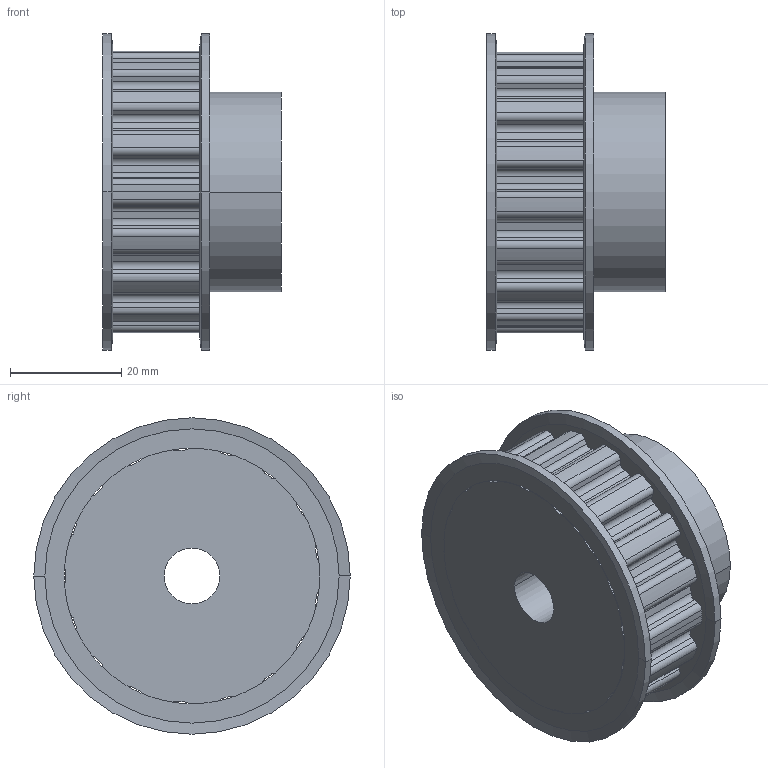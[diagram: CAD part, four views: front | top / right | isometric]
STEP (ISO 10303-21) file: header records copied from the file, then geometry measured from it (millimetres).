
FILE_DESCRIPTION( ( '' ), '1' );
FILE_NAME( 'C:/Users/Stangenbergd/Documents/CAD_Step/1/18211700.stp', '2021-10-19T10:34:58', ( '' ), ( '' ), ' ', ' ', ' ' );
FILE_SCHEMA( ( 'CONFIG_CONTROL_DESIGN' ) );
Length unit declared in the file: millimetre
Products named in the file (1): 1
Bounding box: 32.13 x 57 x 57 mm (x, y, z)
Volume: 47798 mm3; surface area: 12870.4 mm2
Topology: 1 solids, 1 shells, 232 faces, 803 edges, 510 vertices
Faces by surface type: cylinder 166, plane 58, cone 8
Entity records: 8971 total; most frequent: DIRECTION 1677, ORIENTED_EDGE 1606, CARTESIAN_POINT 1546, EDGE_CURVE 803, AXIS2_PLACEMENT_3D 641, VERTEX_POINT 510, CIRCLE 408, LINE 395
